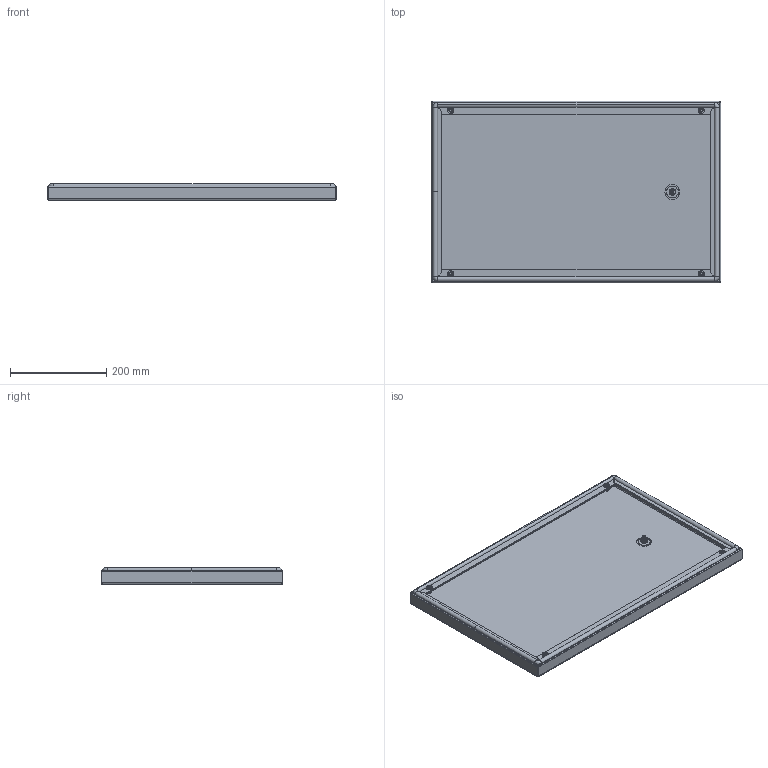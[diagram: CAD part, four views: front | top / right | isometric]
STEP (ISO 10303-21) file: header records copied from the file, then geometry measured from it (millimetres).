
FILE_DESCRIPTION (( 'STEP AP203' ), '1' );
FILE_NAME ('P 60.40-N Ïàíåëü êîíöåâàÿ íèæíåé ÷àñòè.STEP', '2025-10-02T13:31:03', ( '' ), ( '' ), 'SwSTEP 2.0', 'SolidWorks 2019', '' );
FILE_SCHEMA (( 'CONFIG_CONTROL_DESIGN' ));
Length unit declared in the file: millimetre
Products named in the file (4): P 60.40-N Ïàíåëü êîíöåâàÿ íèæíåé ÷àñòè; Ãàéêà-çàêë¸ïêà Ì6; P Y.40(50)-N(D).01 Ïàíåëü êîíöåâàÿ íèæíåé ÷àñòè_P 60.40-N.01; Øïèëüêà çàçåìëåíèÿ Ì6õ17,5_˜¯¨«ìª  § §¥¬«¥­¨ï Œ6å17,5
Assembly tree (6 placements, depth 2):
  P 60.40-N Ïàíåëü êîíöåâàÿ íèæíåé ÷àñòè
    P Y.40(50)-N(D).01 Ïàíåëü êîíöåâàÿ íèæíåé ÷àñòè_P 60.40-N.01
    Ãàéêà-çàêë¸ïêà Ì6  x4
    Øïèëüêà çàçåìëåíèÿ Ì6õ17,5_˜¯¨«ìª  § §¥¬«¥­¨ï Œ6å17,5
Bounding box: 600 x 377 x 34 mm (x, y, z)
Volume: 523456.2 mm3; surface area: 656763.4 mm2
Topology: 6 solids, 6 shells, 396 faces, 956 edges, 580 vertices
Faces by surface type: cylinder 188, plane 106, bspline 48, torus 48, cone 6
Entity records: 12032 total; most frequent: CARTESIAN_POINT 6392, ORIENTED_EDGE 1184, DIRECTION 927, EDGE_CURVE 592, VERTEX_POINT 355, AXIS2_PLACEMENT_3D 335, EDGE_LOOP 261, VECTOR 257
